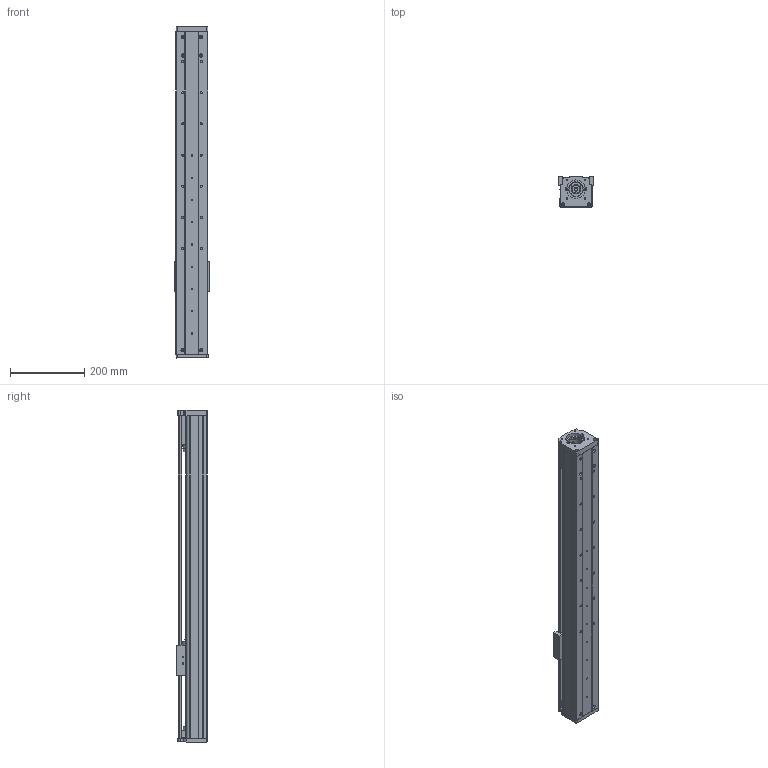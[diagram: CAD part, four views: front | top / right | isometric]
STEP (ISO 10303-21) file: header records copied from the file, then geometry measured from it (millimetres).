
FILE_DESCRIPTION (( 'STEP AP203' ), '1' );
FILE_NAME ('CF86-P650.STEP', '2016-02-22T05:52:28', ( 'Sky123.Org' ), ( 'Sky123.Org' ), 'SwSTEP 2.0', 'SolidWorks 2015', '' );
FILE_SCHEMA (( 'CONFIG_CONTROL_DESIGN' ));
Length unit declared in the file: millimetre
Products named in the file (18): SFU1610ĸ; 癹弇羲壽; 滅袉蝶菜; 86-60侜督萇儂釱; 01 86嘐隅釱; CF86-P650; 02 86盓傅釱; 86耜啣; angular contact ball bearings gb_Rolling bearings S7001 GB 292-94; 86-P420裔啣; 95粣創裔啣; 86-P420臏倰第; 坶踡蹟譫M12-1; EGR15-P420絳寢; deep groove ball bearings gb_Rolling bearings 6001 GB 276-94; EGW15CA賑輸; CF86賑輸; SFU1610-P420幗紩佪裝
Assembly tree (19 placements, depth 2):
  CF86-P650
    86耜啣
    86-P420裔啣
    86-P420臏倰第
    EGR15-P420絳寢
    EGW15CA賑輸
    SFU1610-P420幗紩佪裝
    SFU1610ĸ
    滅袉蝶菜  x2
    01 86嘐隅釱
    02 86盓傅釱
    angular contact ball bearings gb_Rolling bearings S7001 GB 292-94  x2
    95粣創裔啣
    坶踡蹟譫M12-1
    deep groove ball bearings gb_Rolling bearings 6001 GB 276-94
    CF86賑輸
    癹弇羲壽
    86-60侜督萇儂釱
Bounding box: 94 x 82.35 x 895 mm (x, y, z)
Volume: 2283900.2 mm3; surface area: 808326.4 mm2
Topology: 19 solids, 19 shells, 1280 faces, 4062 edges, 2715 vertices
Faces by surface type: cylinder 666, plane 363, torus 159, sphere 84, bspline 4, cone 4
Entity records: 70116 total; most frequent: CARTESIAN_POINT 37814, ORIENTED_EDGE 6768, DIRECTION 6092, EDGE_CURVE 3384, AXIS2_PLACEMENT_3D 2390, VERTEX_POINT 2258, EDGE_LOOP 1420, LINE 1312
